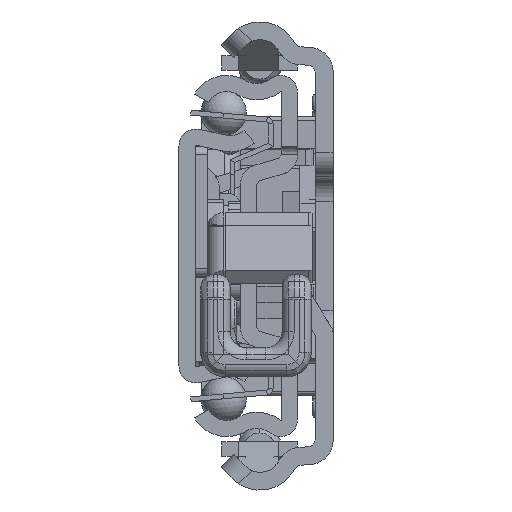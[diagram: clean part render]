
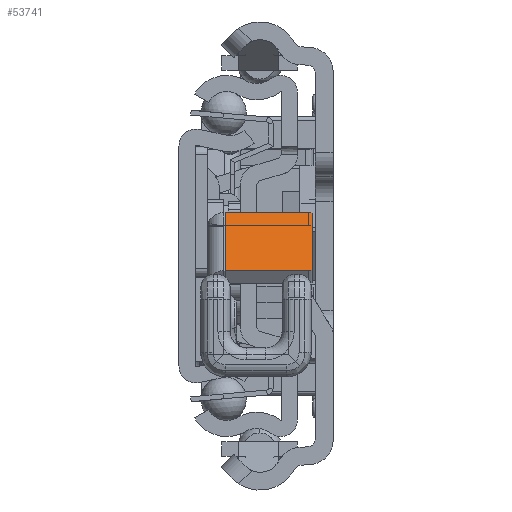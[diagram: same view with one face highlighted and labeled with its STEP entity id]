
A CAD part, left-side view. The second image highlights one B-rep face of the part: STEP entity #53741.
In plain terms, the highlighted planar face has unit normal (-0.597, 0, 0.802) as drawn and (-0.597, -0.802, 0) by its records, which use the part's own axes.
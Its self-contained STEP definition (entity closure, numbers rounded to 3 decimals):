
#53129=DIRECTION('',(0.802,-0.597,0.));
#53130=VECTOR('',#53129,12.);
#53131=CARTESIAN_POINT('',(31.957,-10.314,-0.2));
#53132=LINE('',#53131,#53130);
#53157=DIRECTION('',(0.,0.,1.));
#53158=VECTOR('',#53157,10.3);
#53159=CARTESIAN_POINT('',(41.586,-17.476,-10.5));
#53160=LINE('',#53159,#53158);
#53161=CARTESIAN_POINT('',(41.184,-17.178,-10.5));
#53162=DIRECTION('',(-0.597,-0.802,0.));
#53163=DIRECTION('',(0.,0.,-1.));
#53164=AXIS2_PLACEMENT_3D('',#53161,#53162,#53163);
#53166=DIRECTION('',(0.802,-0.597,0.));
#53167=VECTOR('',#53166,11.);
#53168=CARTESIAN_POINT('',(32.358,-10.613,-11.));
#53169=LINE('',#53168,#53167);
#53170=CARTESIAN_POINT('',(32.358,-10.613,-10.5));
#53171=DIRECTION('',(-0.597,-0.802,0.));
#53172=DIRECTION('',(-0.802,0.597,0.));
#53173=AXIS2_PLACEMENT_3D('',#53170,#53171,#53172);
#53175=DIRECTION('',(0.,0.,-1.));
#53176=VECTOR('',#53175,10.3);
#53177=CARTESIAN_POINT('',(31.957,-10.314,-0.2));
#53178=LINE('',#53177,#53176);
#53395=CARTESIAN_POINT('',(31.957,-10.314,-0.2));
#53396=CARTESIAN_POINT('',(41.586,-17.476,-0.2));
#53397=VERTEX_POINT('',#53395);
#53398=VERTEX_POINT('',#53396);
#53427=CARTESIAN_POINT('',(41.586,-17.476,-10.5));
#53428=VERTEX_POINT('',#53427);
#53429=CARTESIAN_POINT('',(32.358,-10.613,-11.));
#53430=CARTESIAN_POINT('',(41.184,-17.178,-11.));
#53431=VERTEX_POINT('',#53429);
#53432=VERTEX_POINT('',#53430);
#53433=CARTESIAN_POINT('',(31.957,-10.314,-10.5));
#53434=VERTEX_POINT('',#53433);
#53723=CARTESIAN_POINT('',(34.726,-12.374,2.));
#53724=DIRECTION('',(0.597,0.802,0.));
#53725=DIRECTION('',(0.802,-0.597,0.));
#53726=AXIS2_PLACEMENT_3D('',#53723,#53724,#53725);
#53727=PLANE('',#53726);
#53729=ORIENTED_EDGE('',*,*,#53728,.F.);
#53731=ORIENTED_EDGE('',*,*,#53730,.F.);
#53733=ORIENTED_EDGE('',*,*,#53732,.F.);
#53735=ORIENTED_EDGE('',*,*,#53734,.F.);
#53737=ORIENTED_EDGE('',*,*,#53736,.F.);
#53738=ORIENTED_EDGE('',*,*,#53710,.T.);
#53739=EDGE_LOOP('',(#53729,#53731,#53733,#53735,#53737,#53738));
#53740=FACE_OUTER_BOUND('',#53739,.F.);
#53165=CIRCLE('',#53164,0.5);
#53174=CIRCLE('',#53173,0.5);
#53710=EDGE_CURVE('',#53397,#53398,#53132,.T.);
#53728=EDGE_CURVE('',#53428,#53398,#53160,.T.);
#53730=EDGE_CURVE('',#53432,#53428,#53165,.T.);
#53732=EDGE_CURVE('',#53431,#53432,#53169,.T.);
#53734=EDGE_CURVE('',#53434,#53431,#53174,.T.);
#53736=EDGE_CURVE('',#53397,#53434,#53178,.T.);
#53741=ADVANCED_FACE('',(#53740),#53727,.F.);
